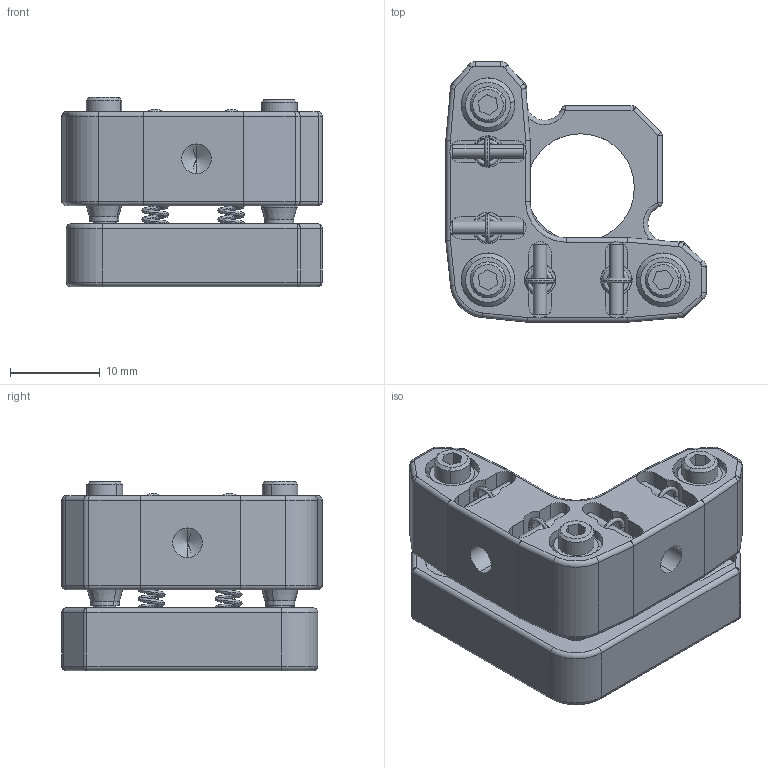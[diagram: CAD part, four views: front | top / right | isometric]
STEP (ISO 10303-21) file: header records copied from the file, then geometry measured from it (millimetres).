
FILE_DESCRIPTION (( 'STEP AP203' ), '1' );
FILE_NAME ('M-TTMSO-05R-HEX.STEP', '2021-10-05T08:55:40', ( '匠星' ), ( '' ), 'SwSTEP 2.0', 'SolidWorks 2019', '' );
FILE_SCHEMA (( 'CONFIG_CONTROL_DESIGN' ));
Length unit declared in the file: millimetre
Products named in the file (1): M-TTMSO-05R-HEX
Bounding box: 29 x 29 x 21.09 mm (x, y, z)
Volume: 7031.7 mm3; surface area: 6324.1 mm2
Topology: 8 solids, 11 shells, 633 faces, 1521 edges, 928 vertices
Faces by surface type: cylinder 292, plane 192, torus 53, cone 48, sphere 34, bspline 14
Entity records: 40164 total; most frequent: CARTESIAN_POINT 25466, DIRECTION 3172, ORIENTED_EDGE 2988, EDGE_CURVE 1494, AXIS2_PLACEMENT_3D 1259, VERTEX_POINT 923, EDGE_LOOP 695, LINE 654
